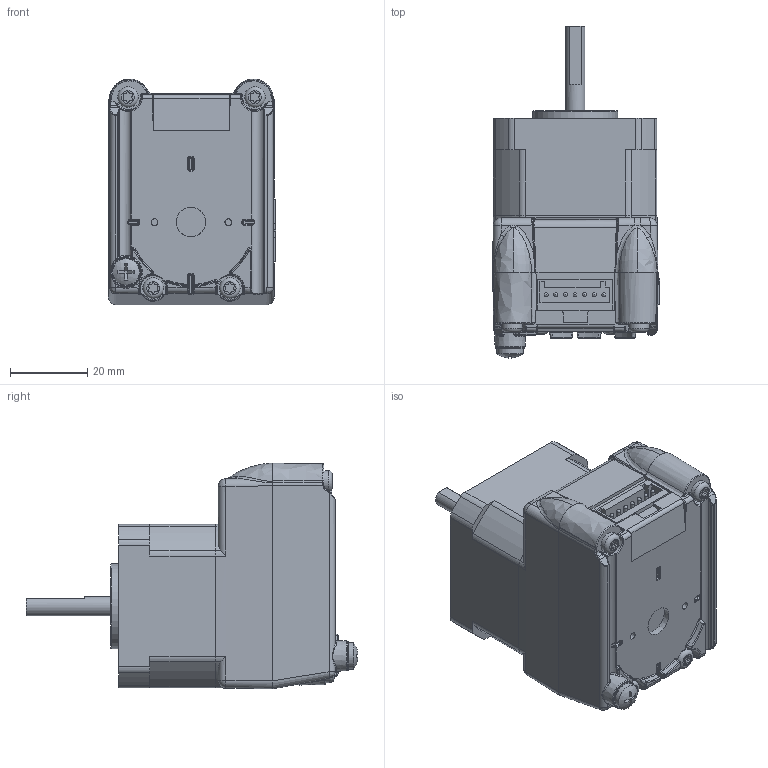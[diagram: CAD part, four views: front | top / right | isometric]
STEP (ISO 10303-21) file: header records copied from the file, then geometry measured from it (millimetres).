
FILE_DESCRIPTION(('MDrive17Plus_Std_Motor_Single.stp'),'1');
FILE_NAME('T:/Kubotek Models For Design Assemblies/3D Step File Models Posted on-line/MDrive17 Plus Motors/MDrive17Plus_Std_Motor_Single.stp', '2016-05-25T19:27:00',('P. Bordua, 05/25/16'), ('Schneider Electric Motion USA'), 'KCM Version 1.1.1406.0', 'Kubotek KeyCreator', 'Kubotek KeyCreator');
FILE_SCHEMA(('AUTOMOTIVE_DESIGN'));
Length unit declared in the file: inch
Bounding box: 43.15 x 85.7 x 58.35 mm (x, y, z)
Volume: 111716.5 mm3; surface area: 16463.8 mm2
Topology: 1 solids, 20 shells, 917 faces, 2328 edges, 1449 vertices
Faces by surface type: plane 325, cylinder 271, bspline 220, cone 40, torus 35, sphere 26
Full cylindrical faces by diameter (mm): 1.041 x7, 2.5 x4, 4.999 x1, 5.385 x4, 6.858 x1, 7.315 x2, 7.62 x1, 9.525 x1, 21.996 x1
Entity records: 55060 total; most frequent: CARTESIAN_POINT 32377, ORIENTED_EDGE 4642, DIRECTION 3884, EDGE_CURVE 2309, AXIS2_PLACEMENT_3D 1471, VERTEX_POINT 1449, EDGE_LOOP 960, VECTOR 942
